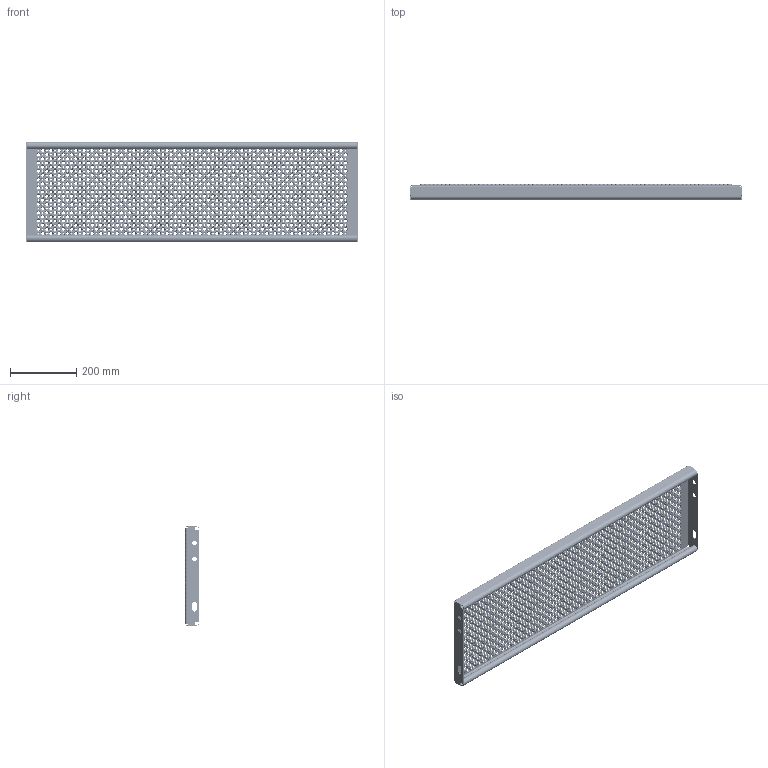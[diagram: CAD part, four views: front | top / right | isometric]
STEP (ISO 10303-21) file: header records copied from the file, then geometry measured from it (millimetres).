
FILE_DESCRIPTION (( 'STEP AP214' ), '1' );
FILE_NAME ('OPTIMO-Tread-Achil-O2-1000x300x45x2-st240-F100500100.STEP', '2021-03-18T10:42:33', ( '' ), ( '' ), 'SwSTEP 2.0', 'SolidWorks 2021', '' );
FILE_SCHEMA (( 'AUTOMOTIVE_DESIGN' ));
Length unit declared in the file: millimetre
Products named in the file (1): OPTIMO-Tread-Achil-O2-1000x300x45x2-st240-F100500100
Bounding box: 1000 x 45 x 300 mm (x, y, z)
Volume: 959133 mm3; surface area: 1049666.8 mm2
Topology: 1 solids, 1 shells, 17336 faces, 45062 edges, 27728 vertices
Faces by surface type: cone 10350, torus 6900, cylinder 40, plane 38, bspline 8
Entity records: 551612 total; most frequent: DIRECTION 114252, CARTESIAN_POINT 90719, ORIENTED_EDGE 90124, AXIS2_PLACEMENT_3D 51893, EDGE_CURVE 45062, CIRCLE 34564, VERTEX_POINT 27728, EDGE_LOOP 20798
